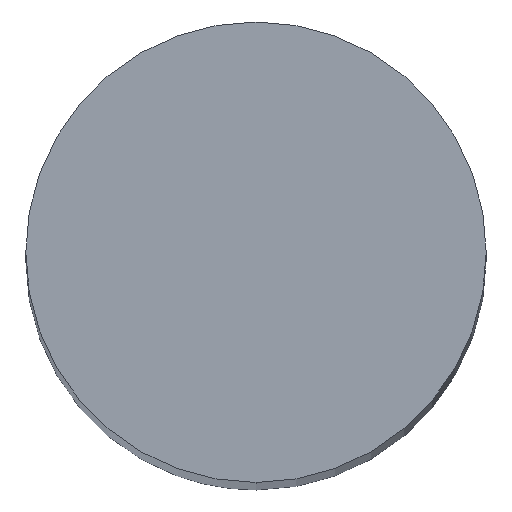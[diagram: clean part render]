
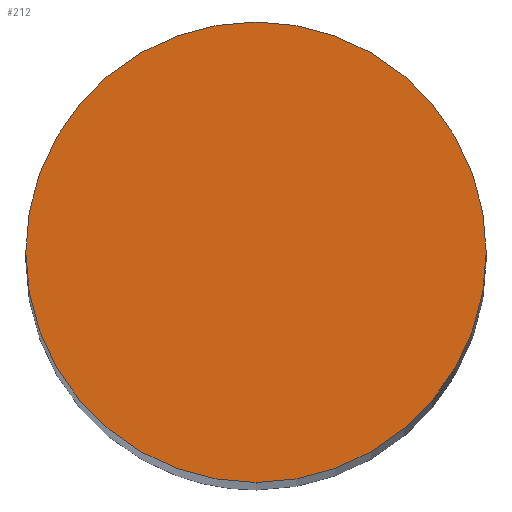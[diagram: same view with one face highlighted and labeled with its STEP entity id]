
A CAD part, top view. The second image highlights one B-rep face of the part: STEP entity #212.
In plain terms, the highlighted planar face has unit normal (0, 0, 1).
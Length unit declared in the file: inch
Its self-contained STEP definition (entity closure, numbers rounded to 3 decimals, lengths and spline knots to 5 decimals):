
#152=CARTESIAN_POINT('',(0.0,-0.125,2.5));
#153=VERTEX_POINT('',#152);
#160=CARTESIAN_POINT('',(0.0,0.125,2.5));
#161=VERTEX_POINT('',#160);
#162=CARTESIAN_POINT('',(0.0,0.0,2.5));
#163=DIRECTION('',(0.0,-0.0,-1.0));
#164=DIRECTION('',(0.0,1.0,-0.0));
#165=AXIS2_PLACEMENT_3D('',#162,#163,#164);
#166=CIRCLE('',#165,0.125);
#167=EDGE_CURVE('no 1421',#153,#161,#166,.T.);
#188=CARTESIAN_POINT('',(0.0,0.0,2.5));
#189=DIRECTION('',(0.0,-0.0,-1.0));
#190=DIRECTION('',(0.0,1.0,-0.0));
#191=AXIS2_PLACEMENT_3D('',#188,#189,#190);
#192=CIRCLE('',#191,0.125);
#193=EDGE_CURVE('no 1425',#161,#153,#192,.T.);
#203=ORIENTED_EDGE('',*,*,#167,.F.);
#204=ORIENTED_EDGE('',*,*,#193,.F.);
#205=EDGE_LOOP('',(#203,#204));
#206=FACE_OUTER_BOUND('',#205,.T.);
#207=CARTESIAN_POINT('',(0.125,0.0,2.5));
#208=DIRECTION('',(0.0,0.0,1.0));
#209=DIRECTION('',(0.0,-1.0,0.0));
#210=AXIS2_PLACEMENT_3D('',#207,#208,#209);
#211=PLANE('',#210);
#212=ADVANCED_FACE('no 1531',(#206),#211,.T.);
